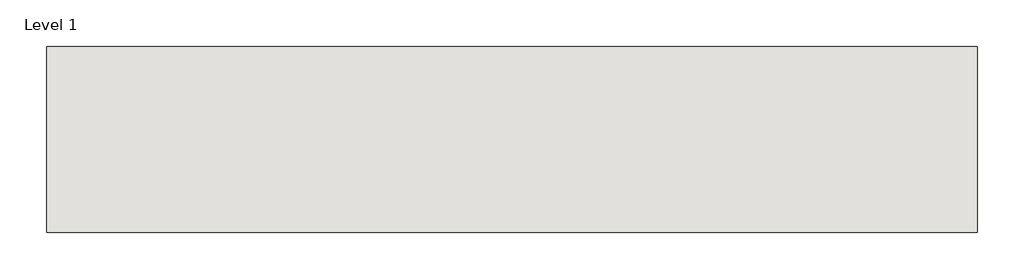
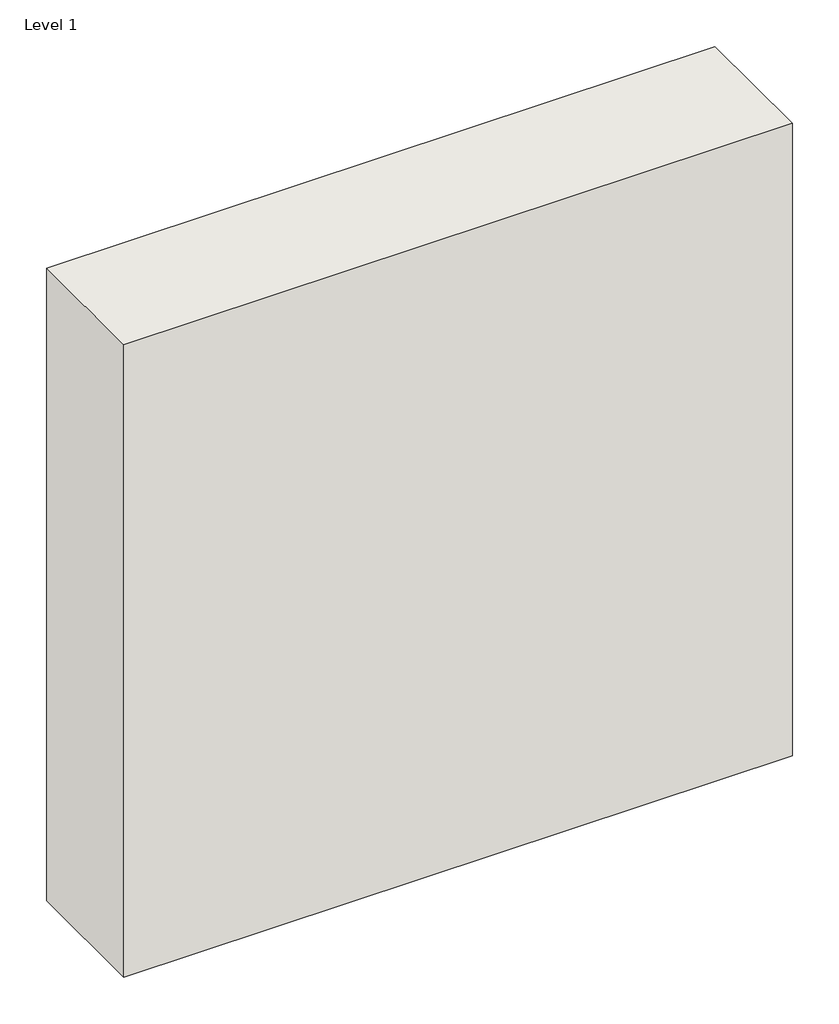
# One storey: 1 wall.
"""IFC4 building model written with IfcOpenShell, lengths in millimetres."""

from ifc_helpers import new_model, si_unit, origin, origin_with_axes, place, context, project, spatial, polyline, outline, extrude, element, save

model = new_model("IFC4")

# Units and contexts
model_context = context("Model", 3, world=origin())
ifc_project = project(units=[si_unit("LENGTHUNIT", "METRE", prefix="MILLI")], contexts=[model_context])

# Site, building, storey
site = spatial("IfcSite", under=ifc_project)
building = spatial("IfcBuilding", under=site)
storey = spatial("IfcBuildingStorey", under=building, Name="Level 1", Elevation=0.0)

# Wall
placement = place(None, origin())
element("IfcWall", 1, ObjectType="PRECERAM - Tijolo Térmico 40x19x20 - PRO20", at=placement, inside=storey, context=model_context, shape_type="SweptSolid", body=[
    extrude(outline(polyline([(1010.0, -40.0), (10.0, -40.0), (10.0, 160.0), (1010.0, 160.0), (1010.0, -40.0)])), origin_with_axes(), (0.0, 0.0, 1.0), 1000.0),
])

save(model, "model.ifc")
